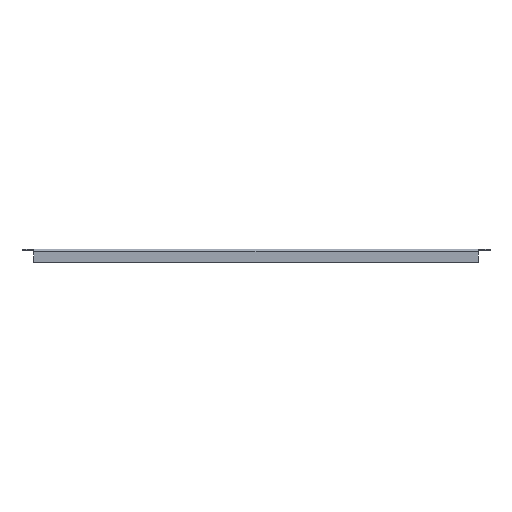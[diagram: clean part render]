
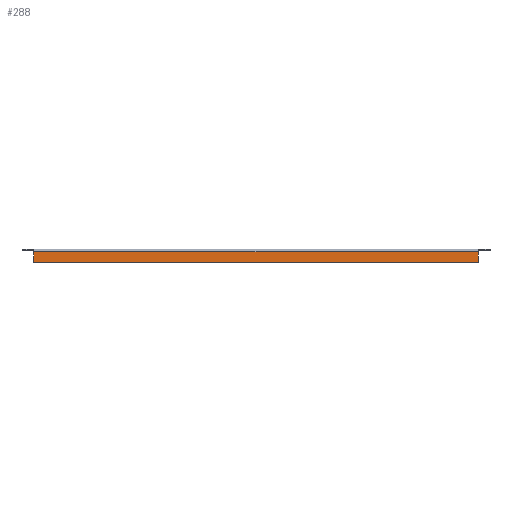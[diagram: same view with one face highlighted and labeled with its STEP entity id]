
A CAD part, left-side view. The second image highlights one B-rep face of the part: STEP entity #288.
In plain terms, the highlighted planar face has unit normal (-1, 0, 0).
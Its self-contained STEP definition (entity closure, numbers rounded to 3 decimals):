
#288=ADVANCED_FACE('',(#2144),#2146,.T.);
#2144=FACE_BOUND('',#2145,.T.);
#2145=EDGE_LOOP('',(#3607,#3608,#3609,#3610,#3611,#3612));
#2146=PLANE('',#2147);
#2147=AXIS2_PLACEMENT_3D('',#2148,#2149,#2150);
#2148=CARTESIAN_POINT('',(-37.5,0.,36.273));
#2149=DIRECTION('',(-1.,0.,0.));
#2150=DIRECTION('',(0.,1.,0.));
#3607=ORIENTED_EDGE('',*,*,#4356,.F.);
#3608=ORIENTED_EDGE('',*,*,#4357,.T.);
#3609=ORIENTED_EDGE('',*,*,#4358,.F.);
#3610=ORIENTED_EDGE('',*,*,#4359,.T.);
#3611=ORIENTED_EDGE('',*,*,#4334,.T.);
#3612=ORIENTED_EDGE('',*,*,#4360,.T.);
#4334=EDGE_CURVE('',#5504,#5505,#5506,.T.);
#4356=EDGE_CURVE('',#5540,#5541,#5542,.F.);
#4357=EDGE_CURVE('',#5540,#5543,#5544,.T.);
#4358=EDGE_CURVE('',#5545,#5543,#5546,.F.);
#4359=EDGE_CURVE('',#5545,#5504,#5547,.T.);
#4360=EDGE_CURVE('',#5505,#5541,#5548,.T.);
#5504=VERTEX_POINT('',#8284);
#5505=VERTEX_POINT('',#8285);
#5506=LINE('',#8286,#8287);
#5540=VERTEX_POINT('',#8372);
#5541=VERTEX_POINT('',#8373);
#5542=CIRCLE('',#8374,2.);
#5543=VERTEX_POINT('',#8378);
#5544=LINE('',#8379,#8380);
#5545=VERTEX_POINT('',#8382);
#5546=CIRCLE('',#8383,2.);
#5547=LINE('',#8387,#8388);
#5548=LINE('',#8390,#8391);
#8284=CARTESIAN_POINT('',(-37.5,-306.5,-2.));
#8285=CARTESIAN_POINT('',(-37.5,306.5,-2.));
#8286=CARTESIAN_POINT('',(-37.5,-306.5,-2.));
#8287=VECTOR('',#8288,1.);
#8288=DIRECTION('',(0.,1.,0.));
#8372=CARTESIAN_POINT('',(-37.5,304.5,-17.5));
#8373=CARTESIAN_POINT('',(-37.5,306.5,-15.5));
#8374=AXIS2_PLACEMENT_3D('',#8375,#8376,#8377);
#8375=CARTESIAN_POINT('',(-37.5,304.5,-15.5));
#8376=DIRECTION('',(-1.,0.,0.));
#8377=DIRECTION('',(0.,1.,0.));
#8378=CARTESIAN_POINT('',(-37.5,-304.5,-17.5));
#8379=CARTESIAN_POINT('',(-37.5,304.5,-17.5));
#8380=VECTOR('',#8381,1.);
#8381=DIRECTION('',(0.,-1.,0.));
#8382=CARTESIAN_POINT('',(-37.5,-306.5,-15.5));
#8383=AXIS2_PLACEMENT_3D('',#8384,#8385,#8386);
#8384=CARTESIAN_POINT('',(-37.5,-304.5,-15.5));
#8385=DIRECTION('',(-1.,0.,0.));
#8386=DIRECTION('',(0.,0.,-1.));
#8387=CARTESIAN_POINT('',(-37.5,-306.5,-15.5));
#8388=VECTOR('',#8389,1.);
#8389=DIRECTION('',(0.,0.,1.));
#8390=CARTESIAN_POINT('',(-37.5,306.5,-2.));
#8391=VECTOR('',#8392,1.);
#8392=DIRECTION('',(0.,0.,-1.));
